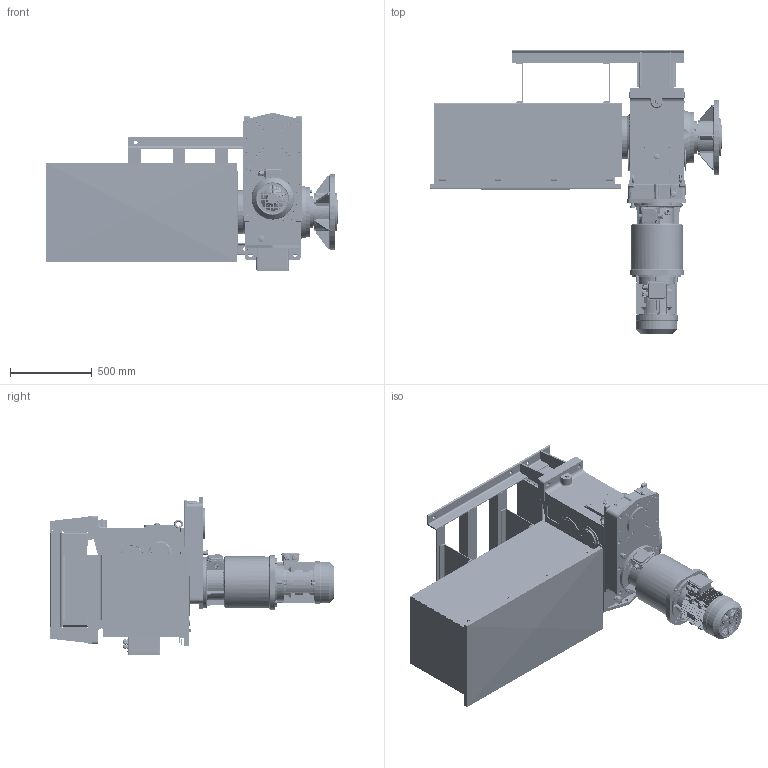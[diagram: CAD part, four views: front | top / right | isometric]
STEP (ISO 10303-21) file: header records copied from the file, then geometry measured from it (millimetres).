
FILE_DESCRIPTION(/* description */ (''),/* implementation_level */ '2;1');
FILE_NAME(/* name */ 'K:\NEMANJA\CABLE REEL\CABLE REEL DA\0700-6\07006002 DAPR-MCGBSR\STEP\75942.stp',/* time_stamp */ '2017-03-16T13:00:11+01:00',/* author */ ('milman01'),/* organization */ ('Hillmar Industries Ltd.'),/* preprocessor_version */ 'ST-DEVELOPER v16.1',/* originating_system */ 'Autodesk Inventor 2016',/* authorisation */ '');
FILE_SCHEMA (('AUTOMOTIVE_DESIGN { 1 0 10303 214 3 1 1 }'));
Products named in the file (1): 75942
Bounding box: 1786.25 x 1729.71 x 960.37 mm (x, y, z)
Volume: 101154372.2 mm3; surface area: 17561319.6 mm2
Topology: 16 solids, 16 shells, 7883 faces, 21168 edges, 13559 vertices
Faces by surface type: plane 4229, cylinder 1932, bspline 815, cone 520, torus 338, sphere 49
Full cylindrical faces by diameter (mm): 3 x4, 6 x4, 7 x4, 8 x3, 8.376 x16, 8.731 x1, 10 x38, 10.106 x74, 10.38 x2, 10.5 x3, 11 x20, 11.053 x5, 12 x8, 12.5 x6, 13 x35, 13.2 x2, 13.5 x12, 14 x16, 15 x10, 16.974 x3, 17.2 x5, 17.336 x1, 17.4 x1, 18 x5, 18.256 x3, 18.38 x4, 20 x17, 20.5 x4, 21.336 x2, 22 x22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
Entity records: 271891 total; most frequent: CARTESIAN_POINT 75718, ORIENTED_EDGE 40060, DIRECTION 36336, EDGE_CURVE 20012, VERTEX_POINT 13238, AXIS2_PLACEMENT_3D 12478, LINE 11380, VECTOR 11380
